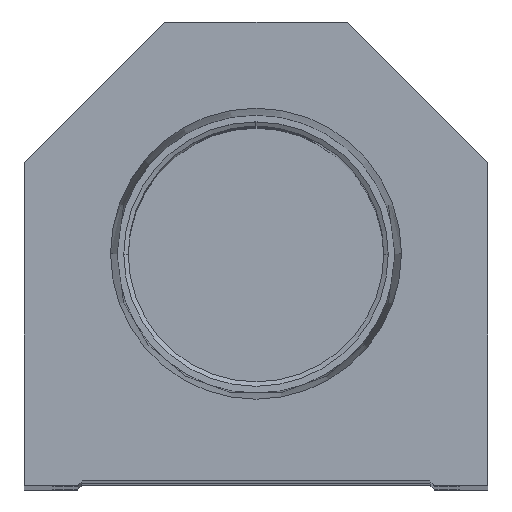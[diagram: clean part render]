
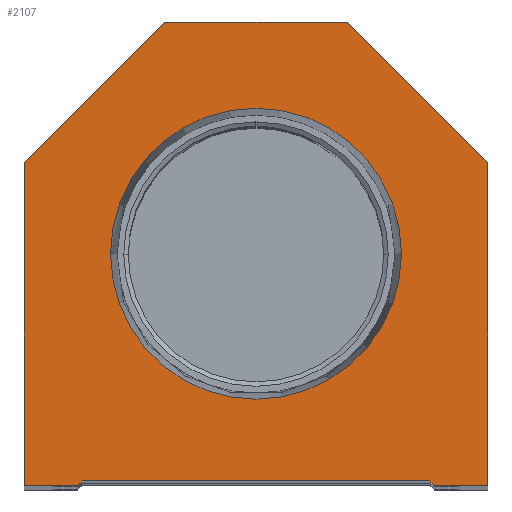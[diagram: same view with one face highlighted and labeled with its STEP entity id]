
A CAD part, top view. The second image highlights one B-rep face of the part: STEP entity #2107.
In plain terms, the highlighted planar face has unit normal (0, 0, 1).
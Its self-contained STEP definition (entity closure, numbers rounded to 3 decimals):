
#307 = VERTEX_POINT ( 'NONE', #1786 ) ;
#657 = EDGE_LOOP ( 'NONE', ( #11968, #4124, #6083, #4573, #3282, #19997, #6238, #4187, #18584, #8010 ) ) ;
#917 = EDGE_CURVE ( 'NONE', #4436, #1561, #14061, .T. ) ;
#982 = CARTESIAN_POINT ( 'NONE',  ( 19.55, 0., 0. ) ) ;
#1097 = CARTESIAN_POINT ( 'NONE',  ( -19.05, 0.5, 0. ) ) ;
#1341 = VERTEX_POINT ( 'NONE', #19276 ) ;
#1561 = VERTEX_POINT ( 'NONE', #12530 ) ;
#1757 = FACE_OUTER_BOUND ( 'NONE', #657, .T. ) ;
#1786 = CARTESIAN_POINT ( 'NONE',  ( 19.05, 0.5, 0. ) ) ;
#2107 = ADVANCED_FACE ( 'NONE', ( #7903, #1757 ), #5188, .T. ) ;
#2515 = AXIS2_PLACEMENT_3D ( 'NONE', #17321, #17524, #17429 ) ;
#2877 = AXIS2_PLACEMENT_3D ( 'NONE', #14162, #4780, #6493 ) ;
#3054 = CARTESIAN_POINT ( 'NONE',  ( 15.947, 25.4, 0. ) ) ;
#3282 = ORIENTED_EDGE ( 'NONE', *, *, #11632, .T. ) ;
#3308 = LINE ( 'NONE', #5012, #10721 ) ;
#3322 = VECTOR ( 'NONE', #18048, 1000. ) ;
#3436 = EDGE_CURVE ( 'NONE', #307, #14161, #8528, .T. ) ;
#3670 = EDGE_CURVE ( 'NONE', #7431, #19631, #19489, .T. ) ;
#3780 = EDGE_CURVE ( 'NONE', #8792, #307, #11826, .T. ) ;
#3860 = CARTESIAN_POINT ( 'NONE',  ( 25.4, 35.4, 0. ) ) ;
#4064 = DIRECTION ( 'NONE',  ( 0., -1., 0. ) ) ;
#4124 = ORIENTED_EDGE ( 'NONE', *, *, #7953, .T. ) ;
#4187 = ORIENTED_EDGE ( 'NONE', *, *, #5096, .T. ) ;
#4226 = LINE ( 'NONE', #11999, #17562 ) ;
#4436 = VERTEX_POINT ( 'NONE', #3860 ) ;
#4472 = VECTOR ( 'NONE', #18641, 1000. ) ;
#4573 = ORIENTED_EDGE ( 'NONE', *, *, #3436, .T. ) ;
#4780 = DIRECTION ( 'NONE',  ( 0., 0., 1. ) ) ;
#4894 = ORIENTED_EDGE ( 'NONE', *, *, #16205, .F. ) ;
#5012 = CARTESIAN_POINT ( 'NONE',  ( 10., 50.8, 0. ) ) ;
#5031 = VERTEX_POINT ( 'NONE', #6627 ) ;
#5096 = EDGE_CURVE ( 'NONE', #1561, #5031, #3308, .T. ) ;
#5188 = PLANE ( 'NONE',  #2515 ) ;
#5271 = ORIENTED_EDGE ( 'NONE', *, *, #7706, .F. ) ;
#5722 = LINE ( 'NONE', #11888, #3322 ) ;
#6059 = VERTEX_POINT ( 'NONE', #6434 ) ;
#6083 = ORIENTED_EDGE ( 'NONE', *, *, #3780, .T. ) ;
#6195 = CARTESIAN_POINT ( 'NONE',  ( 25.4, 35.4, 0. ) ) ;
#6238 = ORIENTED_EDGE ( 'NONE', *, *, #917, .T. ) ;
#6434 = CARTESIAN_POINT ( 'NONE',  ( 25.4, 0., 0. ) ) ;
#6493 = DIRECTION ( 'NONE',  ( 1., 0., 0. ) ) ;
#6627 = CARTESIAN_POINT ( 'NONE',  ( -10., 50.8, 0. ) ) ;
#6742 = CIRCLE ( 'NONE', #2877, 15.947 ) ;
#6743 = CARTESIAN_POINT ( 'NONE',  ( -15.947, 25.4, 0. ) ) ;
#6757 = VECTOR ( 'NONE', #14303, 1000. ) ;
#6790 = EDGE_CURVE ( 'NONE', #5031, #1341, #15676, .T. ) ;
#7431 = VERTEX_POINT ( 'NONE', #13729 ) ;
#7706 = EDGE_CURVE ( 'NONE', #12817, #11440, #19754, .T. ) ;
#7903 = FACE_BOUND ( 'NONE', #19130, .T. ) ;
#7953 = EDGE_CURVE ( 'NONE', #19631, #8792, #5722, .T. ) ;
#8010 = ORIENTED_EDGE ( 'NONE', *, *, #19751, .T. ) ;
#8054 = VECTOR ( 'NONE', #17985, 1000. ) ;
#8528 = LINE ( 'NONE', #12708, #6757 ) ;
#8792 = VERTEX_POINT ( 'NONE', #13493 ) ;
#8862 = CARTESIAN_POINT ( 'NONE',  ( -19.05, 0., 0. ) ) ;
#9321 = LINE ( 'NONE', #17330, #4472 ) ;
#9776 = LINE ( 'NONE', #14431, #18058 ) ;
#10382 = DIRECTION ( 'NONE',  ( 1., 0., 0. ) ) ;
#10721 = VECTOR ( 'NONE', #16013, 1000. ) ;
#11323 = VECTOR ( 'NONE', #12557, 1000. ) ;
#11440 = VERTEX_POINT ( 'NONE', #6743 ) ;
#11632 = EDGE_CURVE ( 'NONE', #14161, #6059, #4226, .T. ) ;
#11826 = LINE ( 'NONE', #1097, #14201 ) ;
#11888 = CARTESIAN_POINT ( 'NONE',  ( -9.775, 9.775, 0. ) ) ;
#11968 = ORIENTED_EDGE ( 'NONE', *, *, #3670, .T. ) ;
#11999 = CARTESIAN_POINT ( 'NONE',  ( 19.05, 0., 0. ) ) ;
#12362 = CARTESIAN_POINT ( 'NONE',  ( -25.4, 35.4, 0. ) ) ;
#12372 = DIRECTION ( 'NONE',  ( -0.707, 0.707, 0. ) ) ;
#12530 = CARTESIAN_POINT ( 'NONE',  ( 10., 50.8, 0. ) ) ;
#12557 = DIRECTION ( 'NONE',  ( -0.707, -0.707, 0. ) ) ;
#12708 = CARTESIAN_POINT ( 'NONE',  ( 9.775, 9.775, 0. ) ) ;
#12817 = VERTEX_POINT ( 'NONE', #3054 ) ;
#13127 = CARTESIAN_POINT ( 'NONE',  ( -19.55, 0., 0. ) ) ;
#13493 = CARTESIAN_POINT ( 'NONE',  ( -19.05, 0.5, 0. ) ) ;
#13729 = CARTESIAN_POINT ( 'NONE',  ( -25.4, 0., 0. ) ) ;
#13949 = AXIS2_PLACEMENT_3D ( 'NONE', #17777, #19479, #18169 ) ;
#14061 = LINE ( 'NONE', #6195, #14503 ) ;
#14161 = VERTEX_POINT ( 'NONE', #982 ) ;
#14162 = CARTESIAN_POINT ( 'NONE',  ( 0., 25.4, 0. ) ) ;
#14201 = VECTOR ( 'NONE', #10382, 1000. ) ;
#14303 = DIRECTION ( 'NONE',  ( 0.707, -0.707, 0. ) ) ;
#14431 = CARTESIAN_POINT ( 'NONE',  ( -25.4, 0., 0. ) ) ;
#14503 = VECTOR ( 'NONE', #12372, 1000. ) ;
#15676 = LINE ( 'NONE', #12362, #11323 ) ;
#16013 = DIRECTION ( 'NONE',  ( -1., 0., 0. ) ) ;
#16205 = EDGE_CURVE ( 'NONE', #11440, #12817, #6742, .T. ) ;
#17321 = CARTESIAN_POINT ( 'NONE',  ( 0., 0., 0. ) ) ;
#17330 = CARTESIAN_POINT ( 'NONE',  ( 25.4, 0., 0. ) ) ;
#17429 = DIRECTION ( 'NONE',  ( 1., 0., 0. ) ) ;
#17524 = DIRECTION ( 'NONE',  ( 0., 0., 1. ) ) ;
#17562 = VECTOR ( 'NONE', #19967, 1000. ) ;
#17777 = CARTESIAN_POINT ( 'NONE',  ( 0., 25.4, 0. ) ) ;
#17985 = DIRECTION ( 'NONE',  ( 1., 0., 0. ) ) ;
#18048 = DIRECTION ( 'NONE',  ( 0.707, 0.707, 0. ) ) ;
#18058 = VECTOR ( 'NONE', #4064, 1000. ) ;
#18169 = DIRECTION ( 'NONE',  ( 1., 0., 0. ) ) ;
#18584 = ORIENTED_EDGE ( 'NONE', *, *, #6790, .T. ) ;
#18641 = DIRECTION ( 'NONE',  ( 0., 1., 0. ) ) ;
#19130 = EDGE_LOOP ( 'NONE', ( #5271, #4894 ) ) ;
#19198 = EDGE_CURVE ( 'NONE', #6059, #4436, #9321, .T. ) ;
#19276 = CARTESIAN_POINT ( 'NONE',  ( -25.4, 35.4, 0. ) ) ;
#19479 = DIRECTION ( 'NONE',  ( 0., 0., 1. ) ) ;
#19489 = LINE ( 'NONE', #8862, #8054 ) ;
#19631 = VERTEX_POINT ( 'NONE', #13127 ) ;
#19751 = EDGE_CURVE ( 'NONE', #1341, #7431, #9776, .T. ) ;
#19754 = CIRCLE ( 'NONE', #13949, 15.947 ) ;
#19967 = DIRECTION ( 'NONE',  ( 1., 0., 0. ) ) ;
#19997 = ORIENTED_EDGE ( 'NONE', *, *, #19198, .T. ) ;
